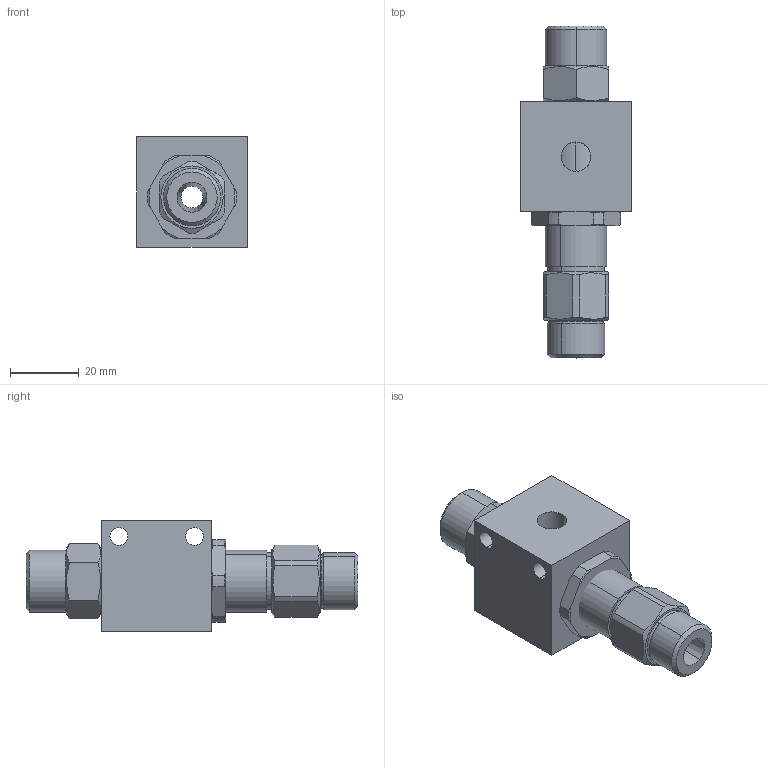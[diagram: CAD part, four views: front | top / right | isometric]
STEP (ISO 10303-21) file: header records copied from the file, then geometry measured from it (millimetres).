
FILE_DESCRIPTION (( 'STEP AP214' ), '1' );
FILE_NAME ('2EJL320631418380.STEP', '2010-09-20T13:30:09', ( ' ' ), ( ' ' ), 'SwSTEP 2.0', 'SolidWorks 2007', '' );
FILE_SCHEMA (( 'AUTOMOTIVE_DESIGN' ));
Length unit declared in the file: millimetre
Products named in the file (1): 2EJL320631418380
Bounding box: 32 x 96.5 x 32 mm (x, y, z)
Volume: 45004.2 mm3; surface area: 14416.2 mm2
Topology: 2 solids, 2 shells, 97 faces, 243 edges, 156 vertices
Faces by surface type: cylinder 34, plane 31, cone 28, torus 4
Entity records: 3635 total; most frequent: CARTESIAN_POINT 891, ORIENTED_EDGE 486, DIRECTION 479, EDGE_CURVE 243, AXIS2_PLACEMENT_3D 194, VERTEX_POINT 156, EDGE_LOOP 111, ADVANCED_FACE 97
